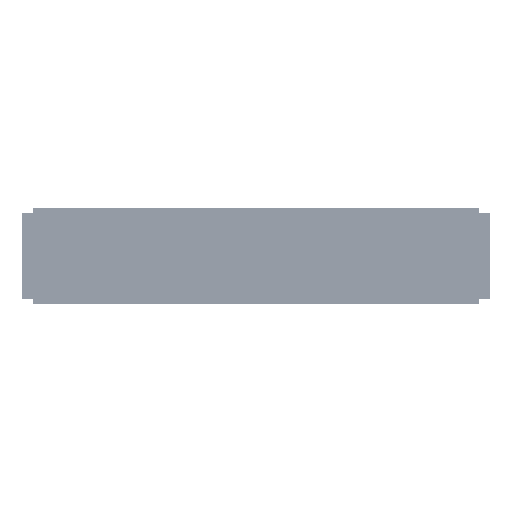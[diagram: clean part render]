
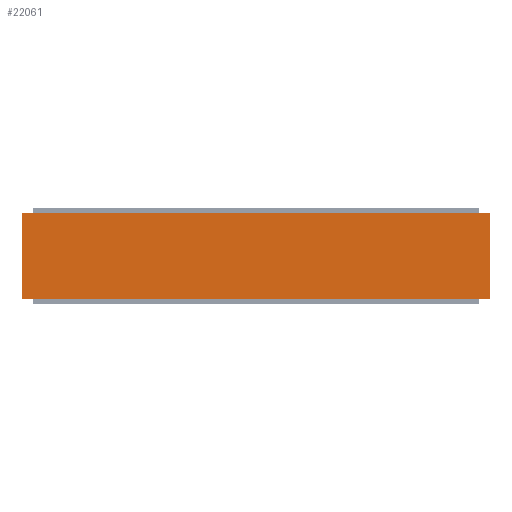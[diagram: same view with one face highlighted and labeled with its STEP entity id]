
A CAD part, left-side view. The second image highlights one B-rep face of the part: STEP entity #22061.
In plain terms, the highlighted planar face has unit normal (-1, 0, 0) as drawn and (0, 0, -1) by its records, which use the part's own axes.
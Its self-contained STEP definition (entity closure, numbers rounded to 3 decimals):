
#10078 = CARTESIAN_POINT ( 'NONE',  ( -183.49, 998.5, 0. ) ) ;
#11376 = DIRECTION ( 'NONE',  ( 0., -1., 0. ) ) ;
#22061 = ADVANCED_FACE ( 'NONE', ( #144847 ), #88375, .F. ) ;
#28937 = CARTESIAN_POINT ( 'NONE',  ( -183.49, 998.5, 0. ) ) ;
#30382 = CARTESIAN_POINT ( 'NONE',  ( -183.49, -998.5, 0. ) ) ;
#30929 = VECTOR ( 'NONE', #11376, 1000. ) ;
#33546 = CARTESIAN_POINT ( 'NONE',  ( -183.49, -998.5, 0. ) ) ;
#36511 = ORIENTED_EDGE ( 'NONE', *, *, #81648, .F. ) ;
#46940 = LINE ( 'NONE', #117282, #30929 ) ;
#47865 = CARTESIAN_POINT ( 'NONE',  ( 183.49, 998.5, 0. ) ) ;
#53568 = DIRECTION ( 'NONE',  ( 1., 0., 0. ) ) ;
#57946 = ORIENTED_EDGE ( 'NONE', *, *, #88815, .F. ) ;
#58073 = VERTEX_POINT ( 'NONE', #10078 ) ;
#61424 = DIRECTION ( 'NONE',  ( -1., 0., 0. ) ) ;
#69789 = LINE ( 'NONE', #126300, #143130 ) ;
#81648 = EDGE_CURVE ( 'NONE', #58073, #93553, #46940, .T. ) ;
#84809 = VERTEX_POINT ( 'NONE', #89987 ) ;
#87222 = EDGE_LOOP ( 'NONE', ( #36511, #148031, #90200, #57946 ) ) ;
#88375 = PLANE ( 'NONE',  #141016 ) ;
#88815 = EDGE_CURVE ( 'NONE', #93553, #96613, #69789, .T. ) ;
#89987 = CARTESIAN_POINT ( 'NONE',  ( 183.49, 998.5, 0. ) ) ;
#90200 = ORIENTED_EDGE ( 'NONE', *, *, #105799, .F. ) ;
#93014 = DIRECTION ( 'NONE',  ( 1., 0., 0. ) ) ;
#93553 = VERTEX_POINT ( 'NONE', #33546 ) ;
#94729 = VECTOR ( 'NONE', #95810, 1000. ) ;
#95810 = DIRECTION ( 'NONE',  ( 0., 1., 0. ) ) ;
#96613 = VERTEX_POINT ( 'NONE', #152651 ) ;
#105799 = EDGE_CURVE ( 'NONE', #96613, #84809, #152299, .T. ) ;
#108001 = EDGE_CURVE ( 'NONE', #84809, #58073, #122473, .T. ) ;
#113096 = DIRECTION ( 'NONE',  ( 0., 0., 1. ) ) ;
#117282 = CARTESIAN_POINT ( 'NONE',  ( -183.49, 998.5, 0. ) ) ;
#122473 = LINE ( 'NONE', #28937, #147160 ) ;
#126300 = CARTESIAN_POINT ( 'NONE',  ( -183.49, -998.5, 0. ) ) ;
#141016 = AXIS2_PLACEMENT_3D ( 'NONE', #30382, #113096, #53568 ) ;
#143130 = VECTOR ( 'NONE', #93014, 1000. ) ;
#144847 = FACE_OUTER_BOUND ( 'NONE', #87222, .T. ) ;
#147160 = VECTOR ( 'NONE', #61424, 1000. ) ;
#148031 = ORIENTED_EDGE ( 'NONE', *, *, #108001, .F. ) ;
#152299 = LINE ( 'NONE', #47865, #94729 ) ;
#152651 = CARTESIAN_POINT ( 'NONE',  ( 183.49, -998.5, 0. ) ) ;
